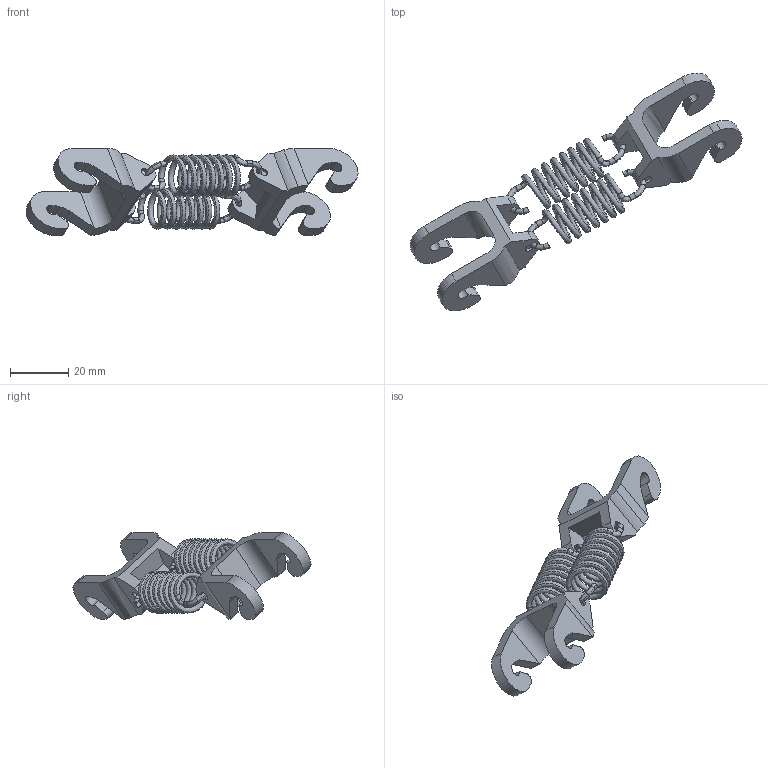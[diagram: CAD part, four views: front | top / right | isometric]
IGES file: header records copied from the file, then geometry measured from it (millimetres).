
Start section: SolidWorks IGES file using analytic representation for surfaces
Global section: file name: C:\Users\SELUHAA\OneDrive - ABB\Work items\609433\IRB360_8-1130-STD-4D_rev03\IRB360_8-1130-STD-4D_rev03_IGS_J\IRB360_8-1130-STD-4D_rev03_LA3_CU_CAD.igs; native system: SolidWorks 2022; preprocessor: SolidWorks 2022; author: SELUHAA; date: 250115.102637; units: millimetre
Bounding box: 114.05 x 81.77 x 29.88 mm (x, y, z)
Volume: 11802.8 mm3; surface area: 10699.5 mm2
Topology: 1 solids, 1 shells, 174 faces, 466 edges, 300 vertices
Faces by surface type: revolution 108, plane 54, bspline 12
